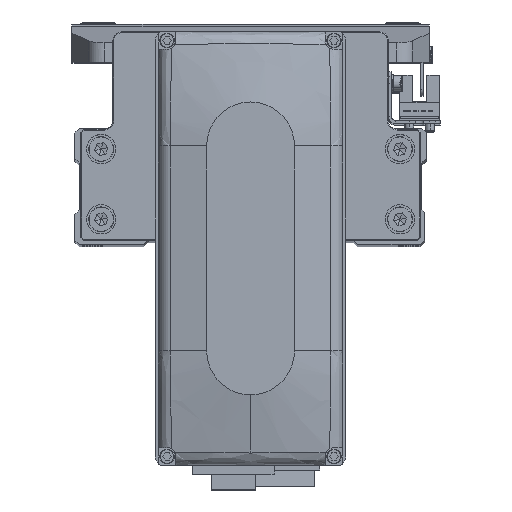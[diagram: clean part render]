
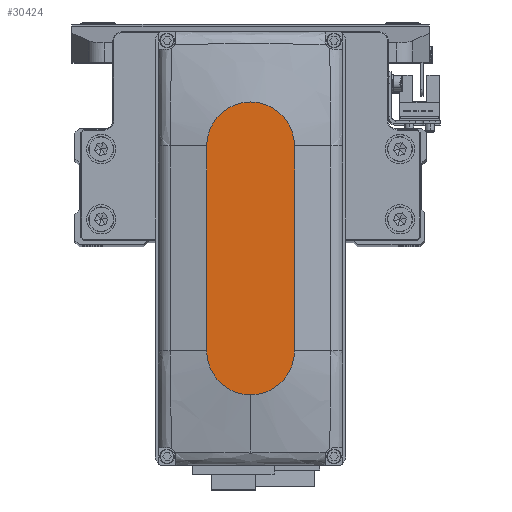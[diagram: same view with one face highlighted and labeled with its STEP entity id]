
A CAD part, top view. The second image highlights one B-rep face of the part: STEP entity #30424.
In plain terms, the highlighted planar face has unit normal (0, 0, 1).
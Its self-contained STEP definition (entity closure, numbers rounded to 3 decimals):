
#111 = DIRECTION ( 'NONE',  ( -1., 0., 0. ) ) ;
#296 = EDGE_LOOP ( 'NONE', ( #10007, #33686, #25222, #34168, #12896 ) ) ;
#315 = CARTESIAN_POINT ( 'NONE',  ( 50., 0., 35. ) ) ;
#541 = EDGE_CURVE ( 'NONE', #25565, #14532, #5181, .T. ) ;
#1945 = VECTOR ( 'NONE', #18715, 1000. ) ;
#4727 = EDGE_CURVE ( 'NONE', #6301, #13692, #35458, .T. ) ;
#5083 = AXIS2_PLACEMENT_3D ( 'NONE', #36165, #5870, #19416 ) ;
#5164 = CARTESIAN_POINT ( 'NONE',  ( -35., -15., 35. ) ) ;
#5181 = CIRCLE ( 'NONE', #5083, 15. ) ;
#5870 = DIRECTION ( 'NONE',  ( 0., 0., 1. ) ) ;
#6180 = EDGE_CURVE ( 'NONE', #13692, #25565, #33850, .T. ) ;
#6301 = VERTEX_POINT ( 'NONE', #14046 ) ;
#6644 = CIRCLE ( 'NONE', #37009, 15. ) ;
#7664 = DIRECTION ( 'NONE',  ( 1., 0., 0. ) ) ;
#9532 = DIRECTION ( 'NONE',  ( 0., 0., 1. ) ) ;
#9841 = CARTESIAN_POINT ( 'NONE',  ( 35., 0., 35. ) ) ;
#10007 = ORIENTED_EDGE ( 'NONE', *, *, #15046, .T. ) ;
#12862 = FACE_OUTER_BOUND ( 'NONE', #296, .T. ) ;
#12896 = ORIENTED_EDGE ( 'NONE', *, *, #541, .T. ) ;
#13692 = VERTEX_POINT ( 'NONE', #20501 ) ;
#14046 = CARTESIAN_POINT ( 'NONE',  ( -35., -15., 35. ) ) ;
#14532 = VERTEX_POINT ( 'NONE', #16442 ) ;
#15046 = EDGE_CURVE ( 'NONE', #14532, #31642, #17047, .T. ) ;
#16442 = CARTESIAN_POINT ( 'NONE',  ( 35., 15., 35. ) ) ;
#17047 = LINE ( 'NONE', #30491, #28515 ) ;
#18715 = DIRECTION ( 'NONE',  ( 1., 0., 0. ) ) ;
#19416 = DIRECTION ( 'NONE',  ( 1., 0., 0. ) ) ;
#20501 = CARTESIAN_POINT ( 'NONE',  ( 35., -15., 35. ) ) ;
#22791 = EDGE_CURVE ( 'NONE', #31642, #6301, #6644, .T. ) ;
#23052 = DIRECTION ( 'NONE',  ( 1., 0., 0. ) ) ;
#23345 = DIRECTION ( 'NONE',  ( 0., 0., 1. ) ) ;
#24505 = CARTESIAN_POINT ( 'NONE',  ( -35., 0., 35. ) ) ;
#25222 = ORIENTED_EDGE ( 'NONE', *, *, #4727, .T. ) ;
#25565 = VERTEX_POINT ( 'NONE', #315 ) ;
#26350 = PLANE ( 'NONE',  #32345 ) ;
#28515 = VECTOR ( 'NONE', #111, 1000. ) ;
#30424 = ADVANCED_FACE ( 'NONE', ( #12862 ), #26350, .T. ) ;
#30491 = CARTESIAN_POINT ( 'NONE',  ( -35., 15., 35. ) ) ;
#31642 = VERTEX_POINT ( 'NONE', #41884 ) ;
#32345 = AXIS2_PLACEMENT_3D ( 'NONE', #39801, #9532, #23052 ) ;
#33686 = ORIENTED_EDGE ( 'NONE', *, *, #22791, .T. ) ;
#33850 = CIRCLE ( 'NONE', #39503, 15. ) ;
#34168 = ORIENTED_EDGE ( 'NONE', *, *, #6180, .T. ) ;
#35458 = LINE ( 'NONE', #5164, #1945 ) ;
#36165 = CARTESIAN_POINT ( 'NONE',  ( 35., 0., 35. ) ) ;
#36771 = DIRECTION ( 'NONE',  ( 1., 0., 0. ) ) ;
#37009 = AXIS2_PLACEMENT_3D ( 'NONE', #24505, #37944, #7664 ) ;
#37944 = DIRECTION ( 'NONE',  ( 0., 0., 1. ) ) ;
#39503 = AXIS2_PLACEMENT_3D ( 'NONE', #9841, #23345, #36771 ) ;
#39801 = CARTESIAN_POINT ( 'NONE',  ( 0., 0., 35. ) ) ;
#41884 = CARTESIAN_POINT ( 'NONE',  ( -35., 15., 35. ) ) ;
